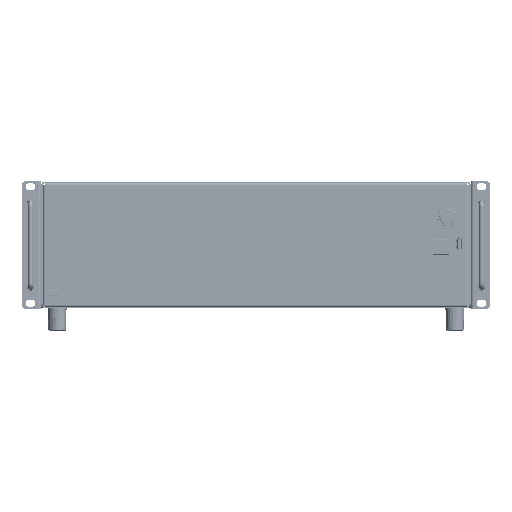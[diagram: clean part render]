
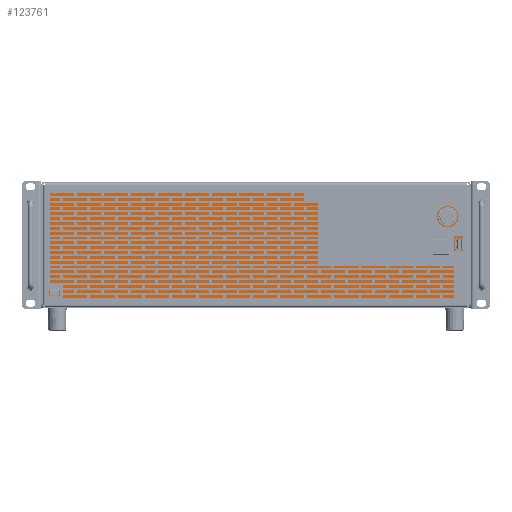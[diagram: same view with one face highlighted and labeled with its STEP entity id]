
A CAD part, front view. The second image highlights one B-rep face of the part: STEP entity #123761.
In plain terms, the highlighted planar face has unit normal (0, -1, 0).
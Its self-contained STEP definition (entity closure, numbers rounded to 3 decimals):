
#123761=ADVANCED_FACE('',(#251746),#251747,.F.);
#251746=FACE_OUTER_BOUND('',#419688,.T.);
#251747=PLANE('',#419689);
#419688=EDGE_LOOP('',(#785727,#785728,#785729,#785730));
#419689=AXIS2_PLACEMENT_3D('',#785731,#785732,#785733);
#785727=ORIENTED_EDGE('',*,*,#931849,.T.);
#785728=ORIENTED_EDGE('',*,*,#931845,.F.);
#785729=ORIENTED_EDGE('',*,*,#931850,.F.);
#785730=ORIENTED_EDGE('',*,*,#931842,.F.);
#785731=CARTESIAN_POINT('',(215.7,10.,65.475));
#785732=DIRECTION('',(0.0,1.0,0.0));
#785733=DIRECTION('',(0.0,0.0,1.0));
#931842=EDGE_CURVE('',#1144046,#1144041,#1144048,.T.);
#931845=EDGE_CURVE('',#1144051,#1144053,#1144054,.T.);
#931849=EDGE_CURVE('',#1144046,#1144053,#1144059,.T.);
#931850=EDGE_CURVE('',#1144041,#1144051,#1144060,.T.);
#1144041=VERTEX_POINT('',#1451880);
#1144046=VERTEX_POINT('',#1451887);
#1144048=LINE('',#1451890,#1451891);
#1144051=VERTEX_POINT('',#1451894);
#1144053=VERTEX_POINT('',#1451897);
#1144054=LINE('',#1451898,#1451899);
#1144059=LINE('',#1451906,#1451907);
#1144060=LINE('',#1451908,#1451909);
#1451880=CARTESIAN_POINT('',(432.9,10.,129.45));
#1451887=CARTESIAN_POINT('',(-1.5,10.,129.45));
#1451890=CARTESIAN_POINT('',(215.7,10.,129.45));
#1451891=VECTOR('',#1598072,1.0);
#1451894=CARTESIAN_POINT('',(432.9,10.,1.5));
#1451897=CARTESIAN_POINT('',(-1.5,10.,1.5));
#1451898=CARTESIAN_POINT('',(215.7,10.,1.5));
#1451899=VECTOR('',#1598074,1.0);
#1451906=CARTESIAN_POINT('',(-1.5,10.,65.475));
#1451907=VECTOR('',#1598077,1.0);
#1451908=CARTESIAN_POINT('',(432.9,10.,65.475));
#1451909=VECTOR('',#1598078,1.0);
#1598072=DIRECTION('',(1.0,0.0,0.0));
#1598074=DIRECTION('',(-1.0,0.0,0.0));
#1598077=DIRECTION('',(0.0,0.0,-1.0));
#1598078=DIRECTION('',(0.0,0.0,-1.0));
